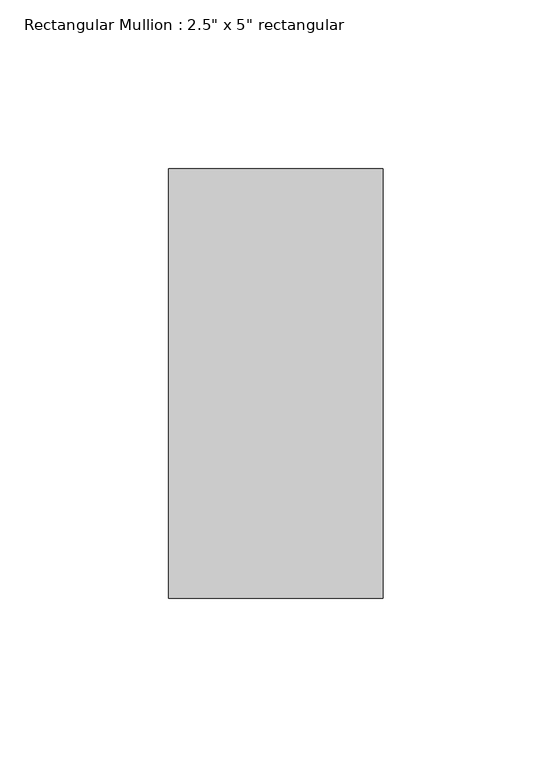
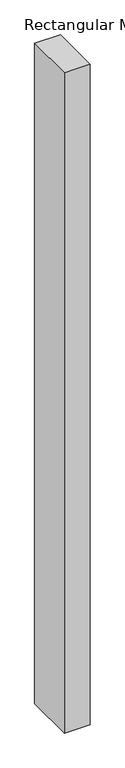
"""IFC4 building model written with IfcOpenShell, lengths in millimetres: member geometry."""

import ifcopenshell
import ifcopenshell.guid

model = None  # the IFC model being written
_history = None  # IfcOwnerHistory: only IFC2X3 demands one
_inside = {}  # id of a spatial element -> (the spatial element, [elements in it])
_under = {}  # id of a project, library or spatial element -> (it, [spatial elements below it])
_declared = {}  # id of a project -> (the project, [libraries it declares])
_typed = {}  # id of a type object -> (the type object, [elements of that type])
_made_of = {}  # id of a material, layer set ... -> (it, [elements and type objects made of it])


def new_model(schema):
    """Start an empty IFC model of exactly this schema.

    Asked for "IFC4X3", IfcOpenShell would pick the latest addendum, in which some entities
    have other attributes; the version numbers below select the first issue.
    IFC2X3 requires an IfcOwnerHistory on every rooted entity: one is made here for all.
    """
    global model, _history
    if schema == "IFC4X3":
        model = ifcopenshell.file(schema_version=(4, 3, 0, 0))
    else:
        model = ifcopenshell.file(schema=schema)
    _inside.clear()
    _under.clear()
    _declared.clear()
    _typed.clear()
    _made_of.clear()
    _history = None
    if model.schema == "IFC2X3":
        org = make("IfcOrganization", Name="unknown")
        user = make(
            "IfcPersonAndOrganization",
            ThePerson=make("IfcPerson", FamilyName="unknown"),
            TheOrganization=org,
        )
        app = make(
            "IfcApplication",
            ApplicationDeveloper=org,
            Version="unknown",
            ApplicationFullName="unknown",
            ApplicationIdentifier="unknown",
        )
        _history = make(
            "IfcOwnerHistory",
            OwningUser=user,
            OwningApplication=app,
            ChangeAction="ADDED",
            CreationDate=0,
        )
    return model


def make(cls, **values):
    """One entity of the class cls with the attributes given. An attribute that is None is left unset."""
    return model.create_entity(
        cls, **{name: value for name, value in values.items() if value is not None}
    )


def rooted(cls, **values):
    """An entity with a GlobalId (a new one), such as an element, a storey or a relation."""
    return make(cls, GlobalId=ifcopenshell.guid.new(), OwnerHistory=_history, **values)


def si_unit(unit_type, name, prefix=None):
    """IfcSIUnit, for example si_unit("LENGTHUNIT", "METRE", prefix="MILLI")."""
    return make("IfcSIUnit", UnitType=unit_type, Prefix=prefix, Name=name)


def assignment(units):
    """IfcUnitAssignment: the units of a project."""
    return None if units is None else make("IfcUnitAssignment", Units=units)


def point(xyz):
    """IfcCartesianPoint."""
    return None if xyz is None else make("IfcCartesianPoint", Coordinates=xyz)


def direction(xyz):
    """IfcDirection."""
    return None if xyz is None else make("IfcDirection", DirectionRatios=xyz)


def frame(location, z_axis=None, x_axis=None):
    """IfcAxis2Placement3D, a coordinate frame: its origin and axes. An axis left out is left unset."""
    return make(
        "IfcAxis2Placement3D",
        Location=point(location),
        Axis=direction(z_axis),
        RefDirection=direction(x_axis),
    )


def origin():
    """The frame at (0, 0, 0) with its axes left unset."""
    return frame((0.0, 0.0, 0.0))


def place(relative_to, where):
    """IfcLocalPlacement: puts the frame where relative to a parent placement (None: the world)."""
    return make(
        "IfcLocalPlacement", PlacementRelTo=relative_to, RelativePlacement=where
    )


def context(
    kind, dimensions, precision=None, world=None, true_north=None, identifier=None
):
    """IfcGeometricRepresentationContext, for example the 3D "Model" context."""
    return make(
        "IfcGeometricRepresentationContext",
        ContextIdentifier=identifier,
        ContextType=kind,
        CoordinateSpaceDimension=dimensions,
        Precision=precision,
        WorldCoordinateSystem=world,
        TrueNorth=true_north,
    )


def project(units=None, contexts=None):
    """IfcProject with its units and contexts."""
    return rooted(
        "IfcProject",
        Name="project",
        RepresentationContexts=contexts,
        UnitsInContext=assignment(units),
    )


def spatial(cls, under=None, at=None, **own):
    """A site, building, storey or space (cls), placed at a placement, below another one or the project."""
    s = rooted(cls, ObjectPlacement=at, **own)
    if under is not None:
        _under.setdefault(under.id(), (under, []))[1].append(s)
    return s


def polyline(points):
    """IfcPolyline through the points."""
    return make("IfcPolyline", Points=[point(p) for p in points])


def outline(outer, holes=None, kind="AREA"):
    """IfcArbitraryClosedProfileDef: a profile drawn as a closed curve; with holes, ...WithVoids."""
    if holes is None:
        return make("IfcArbitraryClosedProfileDef", ProfileType=kind, OuterCurve=outer)
    return make(
        "IfcArbitraryProfileDefWithVoids",
        ProfileType=kind,
        OuterCurve=outer,
        InnerCurves=holes,
    )


def extrude(swept, where, along, depth):
    """IfcExtrudedAreaSolid: the profile swept, set in the frame where, extruded along a direction by depth."""
    return make(
        "IfcExtrudedAreaSolid",
        SweptArea=swept,
        Position=where,
        ExtrudedDirection=direction(along),
        Depth=depth,
    )


def shape(context_of_items, identifier, shape_type, items):
    """IfcShapeRepresentation: the items that make up one representation, for example the "Body"."""
    return make(
        "IfcShapeRepresentation",
        ContextOfItems=context_of_items,
        RepresentationIdentifier=identifier,
        RepresentationType=shape_type,
        Items=items,
    )


def source(mapping_origin, context_of_items, identifier, shape_type, items):
    """IfcRepresentationMap: a shape defined once, which mapped items show again and again."""
    return make(
        "IfcRepresentationMap",
        MappingOrigin=mapping_origin,
        MappedRepresentation=shape(context_of_items, identifier, shape_type, items),
    )


def transform(
    local_origin,
    x_axis=None,
    y_axis=None,
    z_axis=None,
    scale=None,
    scale2=None,
    scale3=None,
    uniform=True,
):
    """IfcCartesianTransformationOperator3D, or its non-uniform kind. x_axis, y_axis, z_axis: its Axis1, 2, 3."""
    if uniform:
        return make(
            "IfcCartesianTransformationOperator3D",
            Axis1=direction(x_axis),
            Axis2=direction(y_axis),
            LocalOrigin=point(local_origin),
            Scale=scale,
            Axis3=direction(z_axis),
        )
    return make(
        "IfcCartesianTransformationOperator3DnonUniform",
        Axis1=direction(x_axis),
        Axis2=direction(y_axis),
        LocalOrigin=point(local_origin),
        Scale=scale,
        Axis3=direction(z_axis),
        Scale2=scale2,
        Scale3=scale3,
    )


def mapped(mapping_source, mapping_target):
    """IfcMappedItem: shows the shape of a source again, moved by a transform."""
    return make(
        "IfcMappedItem", MappingSource=mapping_source, MappingTarget=mapping_target
    )


def made_of(thing, what):
    """Note that an element or type object is made of a material, layer set ...; save() writes the relation."""
    if what is not None:
        _made_of.setdefault(what.id(), (what, []))[1].append(thing)
    return thing


def element(
    cls,
    number,
    at=None,
    inside=None,
    cuts=None,
    type_object=None,
    material=None,
    context=None,
    identifier="Body",
    shape_type=None,
    held_by="IfcProductDefinitionShape",
    body=None,
    shapes=None,
    **own,
):
    """One element of the class cls, such as IfcWall. Its Tag is "e" and its number.

    at: its placement. inside: the storey or other place that contains it. cuts: it is an
    opening in that element (IfcRelVoidsElement). A single representation is given by context,
    identifier, shape_type and body (its items); several are given by shapes. held_by: the class
    of the entity that holds the representations. save() writes the other relations.
    """
    e = rooted(cls, Tag="e%d" % number, ObjectPlacement=at, **own)
    if body is not None:
        shapes = [shape(context, identifier, shape_type, body)]
    if shapes is not None:
        e.Representation = make(held_by, Representations=shapes)
    if inside is not None:
        _inside.setdefault(inside.id(), (inside, []))[1].append(e)
    if cuts is not None:
        rooted(
            "IfcRelVoidsElement", RelatingBuildingElement=cuts, RelatedOpeningElement=e
        )
    if type_object is not None:
        _typed.setdefault(type_object.id(), (type_object, []))[1].append(e)
    return made_of(e, material)


def aggregate(whole, parts):
    """IfcRelAggregates: a whole, such as a stair, and the parts it consists of."""
    return rooted("IfcRelAggregates", RelatingObject=whole, RelatedObjects=parts)


def save(model, path):
    """Write the relations noted so far, then the file.

    IfcRelAggregates (storeys below a building ...), IfcRelContainedInSpatialStructure (elements
    in a storey), IfcRelDefinesByType, IfcRelAssociatesMaterial and IfcRelDeclares: one each for
    every whole, place, type object, material and project.
    """
    for whole, parts in _under.values():
        aggregate(whole, parts)
    for where, things in _inside.values():
        rooted(
            "IfcRelContainedInSpatialStructure",
            RelatedElements=things,
            RelatingStructure=where,
        )
    for kind, things in _typed.values():
        rooted("IfcRelDefinesByType", RelatedObjects=things, RelatingType=kind)
    for what, things in _made_of.values():
        rooted("IfcRelAssociatesMaterial", RelatedObjects=things, RelatingMaterial=what)
    for by, libraries in _declared.values():
        rooted("IfcRelDeclares", RelatingContext=by, RelatedDefinitions=libraries)
    model.write(path)


def member_04775634(model_context):
    return source(origin(), model_context, "Body", "SweptSolid", [
        extrude(outline(polyline([(0.0, 63.5), (0.0, -63.5), (-63.5, -63.5), (-63.5, 63.5), (0.0, 63.5)])), frame((0.0, 0.0, -1724.5271189), z_axis=(0.0, 0.0, 1.0), x_axis=(1.0, 0.0, 0.0)), (0.0, 0.0, 1.0), 1724.5271189),
    ])


if __name__ == "__main__":
    model = new_model("IFC4")
    model_context = context("Model", 3, world=origin())
    ifc_project = project(units=[si_unit("LENGTHUNIT", "METRE", prefix="MILLI")], contexts=[model_context])
    site = spatial("IfcSite", under=ifc_project)
    building = spatial("IfcBuilding", under=site)
    placement = place(None, origin())
    member_shape = member_04775634(model_context)
    element("IfcMember", 1, ObjectType="Rectangular Mullion : 2.5\" x 5\" rectangular", at=placement, inside=building, context=model_context, shape_type="MappedRepresentation", body=[
        mapped(member_shape, transform((0.0, 0.0, 0.0), x_axis=(1.0, 0.0, 0.0), y_axis=(0.0, 1.0, 0.0), z_axis=(0.0, 0.0, 1.0))),
    ])
    save(model, "model.ifc")
